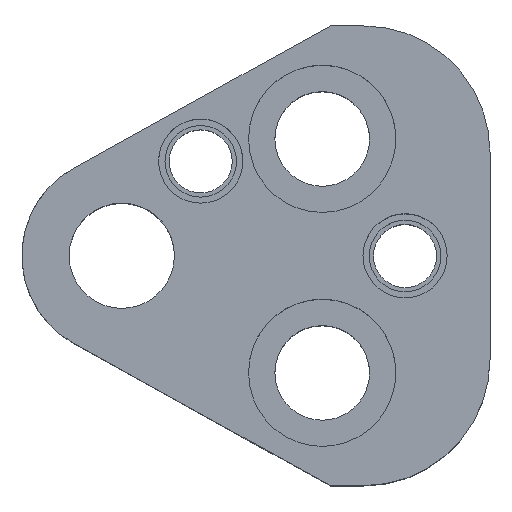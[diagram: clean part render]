
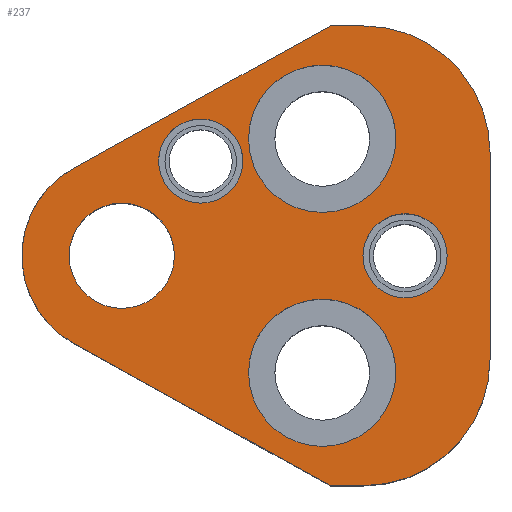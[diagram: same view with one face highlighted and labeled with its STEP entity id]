
A CAD part, top view. The second image highlights one B-rep face of the part: STEP entity #237.
In plain terms, the highlighted planar face has unit normal (0, 0, 1).
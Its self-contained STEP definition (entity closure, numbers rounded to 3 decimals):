
#113=FACE_BOUND('',#341,.T.);
#114=FACE_BOUND('',#342,.T.);
#115=FACE_BOUND('',#343,.T.);
#116=FACE_BOUND('',#344,.T.);
#117=FACE_BOUND('',#345,.T.);
#118=FACE_BOUND('',#346,.T.);
#149=CIRCLE('',#871,12.);
#151=CIRCLE('',#875,12.);
#154=CIRCLE('',#882,9.5);
#170=CIRCLE('',#907,7.);
#172=CIRCLE('',#910,7.);
#174=CIRCLE('',#914,7.);
#176=CIRCLE('',#917,7.);
#190=CIRCLE('',#943,4.);
#191=CIRCLE('',#944,4.);
#192=CIRCLE('',#945,4.);
#193=CIRCLE('',#946,4.);
#194=CIRCLE('',#947,5.);
#195=CIRCLE('',#948,5.);
#237=ADVANCED_FACE('',(#113,#114,#115,#116,#117,#118),#261,.T.);
#261=PLANE('',#949);
#341=EDGE_LOOP('',(#511,#512,#513,#514,#515,#516,#517,#518));
#342=EDGE_LOOP('',(#519,#520));
#343=EDGE_LOOP('',(#521,#522));
#344=EDGE_LOOP('',(#523,#524));
#345=EDGE_LOOP('',(#525,#526));
#346=EDGE_LOOP('',(#527,#528));
#511=ORIENTED_EDGE('',*,*,#675,.T.);
#512=ORIENTED_EDGE('',*,*,#654,.T.);
#513=ORIENTED_EDGE('',*,*,#658,.T.);
#514=ORIENTED_EDGE('',*,*,#661,.T.);
#515=ORIENTED_EDGE('',*,*,#664,.T.);
#516=ORIENTED_EDGE('',*,*,#667,.T.);
#517=ORIENTED_EDGE('',*,*,#670,.T.);
#518=ORIENTED_EDGE('',*,*,#679,.T.);
#519=ORIENTED_EDGE('',*,*,#740,.F.);
#520=ORIENTED_EDGE('',*,*,#741,.F.);
#521=ORIENTED_EDGE('',*,*,#742,.F.);
#522=ORIENTED_EDGE('',*,*,#743,.F.);
#523=ORIENTED_EDGE('',*,*,#718,.F.);
#524=ORIENTED_EDGE('',*,*,#714,.F.);
#525=ORIENTED_EDGE('',*,*,#712,.F.);
#526=ORIENTED_EDGE('',*,*,#708,.F.);
#527=ORIENTED_EDGE('',*,*,#744,.T.);
#528=ORIENTED_EDGE('',*,*,#745,.T.);
#581=VERTEX_POINT('',#1228);
#582=VERTEX_POINT('',#1230);
#585=VERTEX_POINT('',#1237);
#587=VERTEX_POINT('',#1243);
#589=VERTEX_POINT('',#1249);
#591=VERTEX_POINT('',#1255);
#593=VERTEX_POINT('',#1261);
#597=VERTEX_POINT('',#1272);
#619=VERTEX_POINT('',#1342);
#620=VERTEX_POINT('',#1343);
#623=VERTEX_POINT('',#1355);
#624=VERTEX_POINT('',#1356);
#639=VERTEX_POINT('',#1410);
#640=VERTEX_POINT('',#1411);
#641=VERTEX_POINT('',#1414);
#642=VERTEX_POINT('',#1415);
#643=VERTEX_POINT('',#1418);
#644=VERTEX_POINT('',#1419);
#654=EDGE_CURVE('',#582,#581,#764,.T.);
#658=EDGE_CURVE('',#581,#585,#149,.T.);
#661=EDGE_CURVE('',#585,#587,#769,.T.);
#664=EDGE_CURVE('',#587,#589,#151,.T.);
#667=EDGE_CURVE('',#589,#591,#773,.T.);
#670=EDGE_CURVE('',#591,#593,#776,.T.);
#675=EDGE_CURVE('',#597,#582,#781,.T.);
#679=EDGE_CURVE('',#593,#597,#154,.T.);
#708=EDGE_CURVE('',#619,#620,#170,.T.);
#712=EDGE_CURVE('',#620,#619,#172,.T.);
#714=EDGE_CURVE('',#623,#624,#174,.T.);
#718=EDGE_CURVE('',#624,#623,#176,.T.);
#740=EDGE_CURVE('',#639,#640,#190,.T.);
#741=EDGE_CURVE('',#640,#639,#191,.T.);
#742=EDGE_CURVE('',#641,#642,#192,.T.);
#743=EDGE_CURVE('',#642,#641,#193,.T.);
#744=EDGE_CURVE('',#643,#644,#194,.T.);
#745=EDGE_CURVE('',#644,#643,#195,.T.);
#764=LINE('',#1229,#817);
#769=LINE('',#1244,#822);
#773=LINE('',#1256,#826);
#776=LINE('',#1262,#829);
#781=LINE('',#1271,#834);
#817=VECTOR('',#973,1.);
#822=VECTOR('',#986,1.);
#826=VECTOR('',#998,1.);
#829=VECTOR('',#1003,1.);
#834=VECTOR('',#1010,1.);
#871=AXIS2_PLACEMENT_3D('',#1238,#979,#980);
#875=AXIS2_PLACEMENT_3D('',#1250,#991,#992);
#882=AXIS2_PLACEMENT_3D('',#1279,#1017,#1018);
#907=AXIS2_PLACEMENT_3D('',#1341,#1079,#1080);
#910=AXIS2_PLACEMENT_3D('',#1350,#1087,#1088);
#914=AXIS2_PLACEMENT_3D('',#1354,#1095,#1096);
#917=AXIS2_PLACEMENT_3D('',#1363,#1103,#1104);
#943=AXIS2_PLACEMENT_3D('',#1409,#1163,#1164);
#944=AXIS2_PLACEMENT_3D('',#1412,#1165,#1166);
#945=AXIS2_PLACEMENT_3D('',#1413,#1167,#1168);
#946=AXIS2_PLACEMENT_3D('',#1416,#1169,#1170);
#947=AXIS2_PLACEMENT_3D('',#1417,#1171,#1172);
#948=AXIS2_PLACEMENT_3D('',#1420,#1173,#1174);
#949=AXIS2_PLACEMENT_3D('',#1421,#1175,#1176);
#973=DIRECTION('',(1.,0.,0.));
#979=DIRECTION('',(0.,0.,1.));
#980=DIRECTION('',(-0.707,0.707,0.));
#986=DIRECTION('',(0.,1.,0.));
#991=DIRECTION('',(0.,0.,1.));
#992=DIRECTION('',(-0.707,-0.707,0.));
#998=DIRECTION('',(-1.,0.,0.));
#1003=DIRECTION('',(-0.875,-0.485,0.));
#1010=DIRECTION('',(0.875,-0.485,0.));
#1017=DIRECTION('',(0.,0.,1.));
#1018=DIRECTION('',(1.,0.,0.));
#1079=DIRECTION('',(0.,0.,1.));
#1080=DIRECTION('',(-1.,0.,0.));
#1087=DIRECTION('',(0.,0.,1.));
#1088=DIRECTION('',(1.,0.,0.));
#1095=DIRECTION('',(0.,0.,1.));
#1096=DIRECTION('',(-1.,0.,0.));
#1103=DIRECTION('',(0.,0.,1.));
#1104=DIRECTION('',(1.,0.,0.));
#1163=DIRECTION('',(0.,0.,1.));
#1164=DIRECTION('',(1.,0.,0.));
#1165=DIRECTION('',(0.,0.,1.));
#1166=DIRECTION('',(-1.,0.,0.));
#1167=DIRECTION('',(0.,0.,1.));
#1168=DIRECTION('',(1.,0.,0.));
#1169=DIRECTION('',(0.,0.,1.));
#1170=DIRECTION('',(-1.,0.,0.));
#1171=DIRECTION('',(0.,0.,-1.));
#1172=DIRECTION('',(-1.,0.,0.));
#1173=DIRECTION('',(0.,0.,-1.));
#1174=DIRECTION('',(1.,0.,0.));
#1175=DIRECTION('',(0.,0.,1.));
#1176=DIRECTION('',(-0.875,0.485,0.));
#1228=CARTESIAN_POINT('',(23.,-21.85,25.));
#1229=CARTESIAN_POINT('',(19.823,-21.85,25.));
#1230=CARTESIAN_POINT('',(19.823,-21.85,25.));
#1237=CARTESIAN_POINT('',(35.,-9.85,25.));
#1238=CARTESIAN_POINT('',(23.,-9.85,25.));
#1243=CARTESIAN_POINT('',(35.,9.85,25.));
#1244=CARTESIAN_POINT('',(35.,9.85,25.));
#1249=CARTESIAN_POINT('',(23.,21.85,25.));
#1250=CARTESIAN_POINT('',(23.,9.85,25.));
#1255=CARTESIAN_POINT('',(19.823,21.85,25.));
#1256=CARTESIAN_POINT('',(19.823,21.85,25.));
#1261=CARTESIAN_POINT('',(-4.606,8.309,25.));
#1262=CARTESIAN_POINT('',(19.823,21.85,25.));
#1271=CARTESIAN_POINT('',(19.823,-21.85,25.));
#1272=CARTESIAN_POINT('',(-4.606,-8.309,25.));
#1279=CARTESIAN_POINT('',(0.,0.,25.));
#1341=CARTESIAN_POINT('',(19.05,-11.12,25.));
#1342=CARTESIAN_POINT('',(19.05,-18.12,25.));
#1343=CARTESIAN_POINT('',(19.05,-4.12,25.));
#1350=CARTESIAN_POINT('',(19.05,-11.12,25.));
#1354=CARTESIAN_POINT('',(19.05,11.12,25.));
#1355=CARTESIAN_POINT('',(19.05,4.12,25.));
#1356=CARTESIAN_POINT('',(19.05,18.12,25.));
#1363=CARTESIAN_POINT('',(19.05,11.12,25.));
#1409=CARTESIAN_POINT('',(26.925,0.,25.));
#1410=CARTESIAN_POINT('',(26.925,4.,25.));
#1411=CARTESIAN_POINT('',(26.925,-4.,25.));
#1412=CARTESIAN_POINT('',(26.925,0.,25.));
#1413=CARTESIAN_POINT('',(7.5,9.,25.));
#1414=CARTESIAN_POINT('',(7.5,13.,25.));
#1415=CARTESIAN_POINT('',(7.5,5.,25.));
#1416=CARTESIAN_POINT('',(7.5,9.,25.));
#1417=CARTESIAN_POINT('',(0.,0.,25.));
#1418=CARTESIAN_POINT('',(0.,5.,25.));
#1419=CARTESIAN_POINT('',(0.,-5.,25.));
#1420=CARTESIAN_POINT('',(0.,0.,25.));
#1421=CARTESIAN_POINT('',(-4.606,-8.309,25.));
